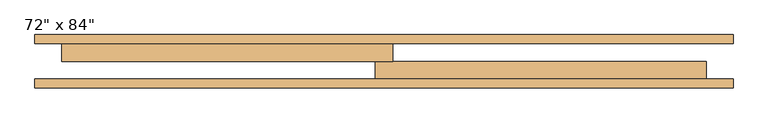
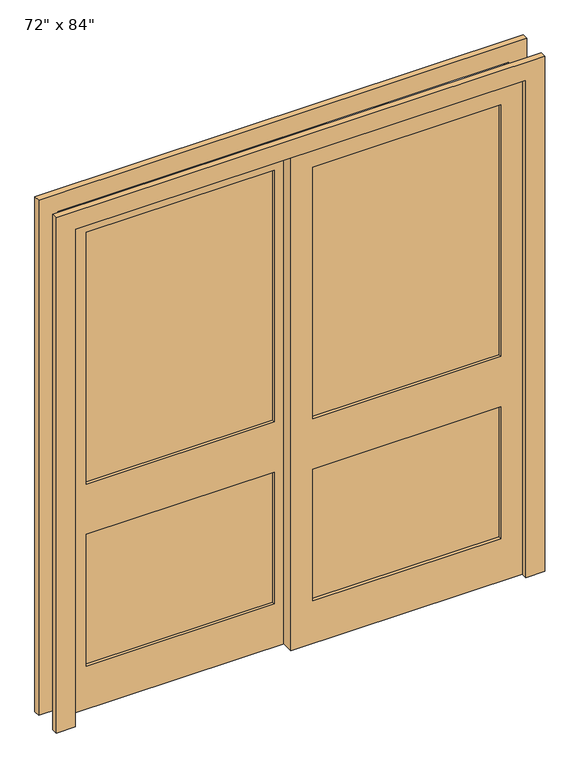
"""IFC4 building model written with IfcOpenShell, lengths in millimetres: door geometry."""

from ifc_helpers import new_model, si_unit, frame, origin, place, context, project, spatial, polyline, outline, extrude, source, transform, mapped, element, save


def door_b8f6f8d4(model_context):
    return source(origin(), model_context, "Body", "SweptSolid", [
        extrude(outline(polyline([(-63.5, 138.9), (-825.5, 138.9), (-825.5, 164.3), (-63.5, 164.3), (-63.5, 138.9)])), frame((0.0, 0.0, 965.2), z_axis=(0.0, 0.0, 1.0), x_axis=(1.0, 0.0, 0.0)), (0.0, 0.0, 1.0), 1079.5),
        extrude(outline(polyline([(-63.5, 138.9), (-825.5, 138.9), (-825.5, 164.3), (-63.5, 164.3), (-63.5, 138.9)])), frame((0.0, 0.0, 184.15), z_axis=(0.0, 0.0, 1.0), x_axis=(1.0, 0.0, 0.0)), (0.0, 0.0, 1.0), 565.15),
        extrude(outline(polyline([(63.5, 113.5), (825.5, 113.5), (825.5, 88.1), (63.5, 88.1), (63.5, 113.5)])), frame((0.0, 0.0, 965.2), z_axis=(0.0, 0.0, 1.0), x_axis=(1.0, 0.0, 0.0)), (0.0, 0.0, 1.0), 1079.5),
        extrude(outline(polyline([(63.5, 113.5), (825.5, 113.5), (825.5, 88.1), (63.5, 88.1), (63.5, 113.5)])), frame((0.0, 0.0, 184.15), z_axis=(0.0, 0.0, 1.0), x_axis=(1.0, 0.0, 0.0)), (0.0, 0.0, 1.0), 565.15),
        extrude(outline(polyline([(2133.6, 25.4), (2133.6, -914.4), (0.0, -914.4), (0.0, 25.4), (2133.6, 25.4)]), holes=[polyline([(184.15, -825.5), (749.3, -825.5), (749.3, -63.5), (184.15, -63.5), (184.15, -825.5)]), polyline([(965.2, -825.5), (2044.7, -825.5), (2044.7, -63.5), (965.2, -63.5), (965.2, -825.5)])]), frame((0.0, 126.2, 0.0), z_axis=(0.0, 1.0, 0.0), x_axis=(0.0, 0.0, 1.0)), (0.0, 0.0, 1.0), 50.8),
        extrude(outline(polyline([(0.0, -990.6), (0.0, -914.4), (2133.6, -914.4), (2133.6, 914.4), (0.0, 914.4), (0.0, 990.6), (2209.8, 990.6), (2209.8, -990.6), (0.0, -990.6)])), frame((0.0, 51.6, 0.0), z_axis=(0.0, 1.0, 0.0), x_axis=(0.0, 0.0, 1.0)), (0.0, 0.0, 1.0), 25.4),
        extrude(outline(polyline([(0.0, 990.6), (2209.8, 990.6), (2209.8, -990.6), (0.0, -990.6), (0.0, -914.4), (2133.6, -914.4), (2133.6, 914.4), (0.0, 914.4), (0.0, 990.6)])), frame((0.0, 177.0, 0.0), z_axis=(0.0, 1.0, 0.0), x_axis=(0.0, 0.0, 1.0)), (0.0, 0.0, 1.0), 25.4),
        extrude(outline(polyline([(2133.6, -25.4), (0.0, -25.4), (0.0, 914.4), (2133.6, 914.4), (2133.6, -25.4)]), holes=[polyline([(965.2, 825.5), (965.2, 63.5), (2044.7, 63.5), (2044.7, 825.5), (965.2, 825.5)]), polyline([(184.15, 825.5), (184.15, 63.5), (749.3, 63.5), (749.3, 825.5), (184.15, 825.5)])]), frame((0.0, 75.4, 0.0), z_axis=(0.0, 1.0, 0.0), x_axis=(0.0, 0.0, 1.0)), (0.0, 0.0, 1.0), 50.8),
    ])


if __name__ == "__main__":
    model = new_model("IFC4")
    model_context = context("Model", 3, world=origin())
    ifc_project = project(units=[si_unit("LENGTHUNIT", "METRE", prefix="MILLI")], contexts=[model_context])
    site = spatial("IfcSite", under=ifc_project)
    building = spatial("IfcBuilding", under=site)
    placement = place(None, origin())
    door_shape = door_b8f6f8d4(model_context)
    element("IfcDoor", 1, ObjectType="skyvedørsgarderobe : 72\" x 84\"", at=placement, inside=building, context=model_context, shape_type="MappedRepresentation", body=[
        mapped(door_shape, transform((0.0, 0.0, 0.0), x_axis=(1.0, 0.0, 0.0), y_axis=(0.0, 1.0, 0.0), z_axis=(0.0, 0.0, 1.0))),
    ])
    save(model, "model.ifc")
